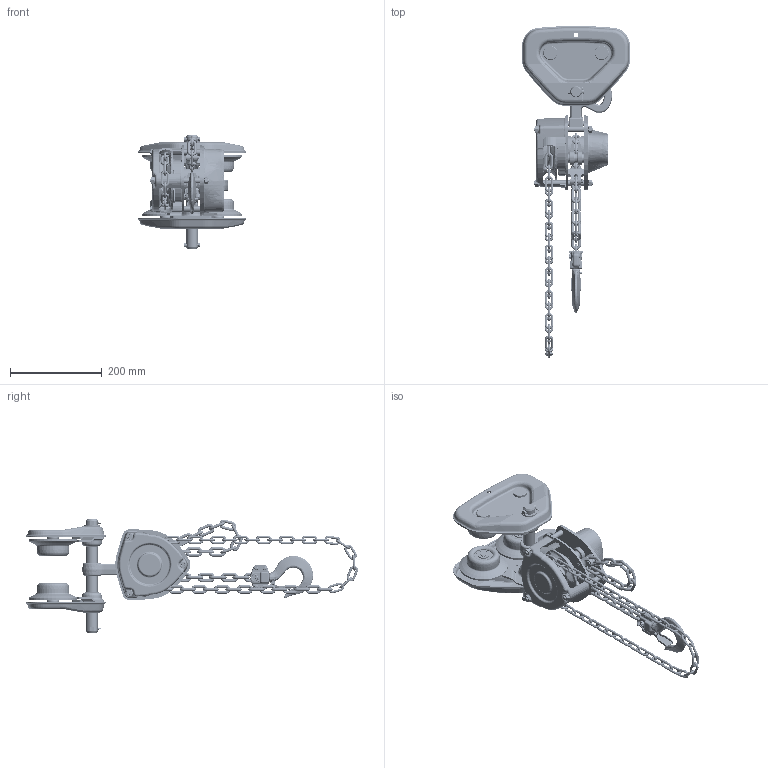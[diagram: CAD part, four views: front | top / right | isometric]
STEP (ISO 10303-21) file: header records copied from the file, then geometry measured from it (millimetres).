
FILE_DESCRIPTION (( 'STEP AP214' ), '1' );
FILE_NAME ('CB010 on PTF2010.STEP', '2026-08-17T18:41:04', ( '' ), ( '' ), 'SwSTEP 2.0', 'SolidWorks 2026', '' );
FILE_SCHEMA (( 'AUTOMOTIVE_DESIGN' ));
Length unit declared in the file: inch
Products named in the file (50): C3BA010-90312; T6GA0109101; M3116010; M3176010; T6G5112010; C3BA005-61012; HCCF005; 9009411_9009411; CF071010; C3BA005-91011; 9009412_9009412; C3BA010-91031; CB010 Load Chain; T6G800010P; HCCF005 FOR CB015; T6GA0109103; M3163010; CB010 on PTF2010; 9047115_9047115; M3177010; M3161010; M3041010; C3BA010-90011; T6GA0109112; MS104010; T7GC004010; M3102010; M2049010; C3BA005-91711; 9093424_9093424; T6GA0109113; T7G117010; C3BA005-91722; C3BA010-91042; C3BA010-91021; M3021A010; PTF2010_4" FLANGE; CB010_Less Top Hook; M3800010; M3171005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
Assembly tree (146 placements, depth 5):
  CB010 on PTF2010
    CB010_Less Top Hook
      M3171005
        C3BA005-91711
        C3BA005-91731  x2
      M3101010
        C3BA005-61012
          C3BA005-91011
          C3BA005-91722
        C3BA010-91042  x3
      M3115005
      M3102010
        C3BA010-91021
      C3BA010-91031
      9012711_9012711  x6
      9093424_9093424  x6
      M3163010
      M3021A010
        C3BA010-90312  x2
        C3BA010-90011
        CF071010
      HCCF005 FOR CB015
        HCCF005  x44
      M3041010
      M2049010
      9009411_9009411
      M3800010
      M3161010  x2
      M3162010
      M3176010
      M3177010
      9009412_9009412
      M3116010
      CB010 Load Chain  x27
    PTF2010_4" FLANGE
      T6G5112010  x2
        T6GA0109112
        T6GA0109113
        T6GA0109103
      T6G5102010  x4
        T6GA0109101
        6302Z BEARING
      MS104010  x4
      9047115_9047115  x4
      T6G800010P
      T7G115010
      T7G117010
      T6G156010  x2
      9009423_9009423  x2
    T7GC004010
Bounding box: 236 x 723.98 x 249 mm (x, y, z)
Volume: 1743288.8 mm3; surface area: 950262.5 mm2
Topology: 138 solids, 154 shells, 6368 faces, 15664 edges, 9640 vertices
Faces by surface type: plane 2052, cylinder 1761, torus 1236, bspline 719, cone 558, sphere 42
Entity records: 407475 total; most frequent: CARTESIAN_POINT 320170, ORIENTED_EDGE 17834, DIRECTION 16479, EDGE_CURVE 8919, AXIS2_PLACEMENT_3D 6856, VERTEX_POINT 5544, EDGE_LOOP 3789, CIRCLE 3752
